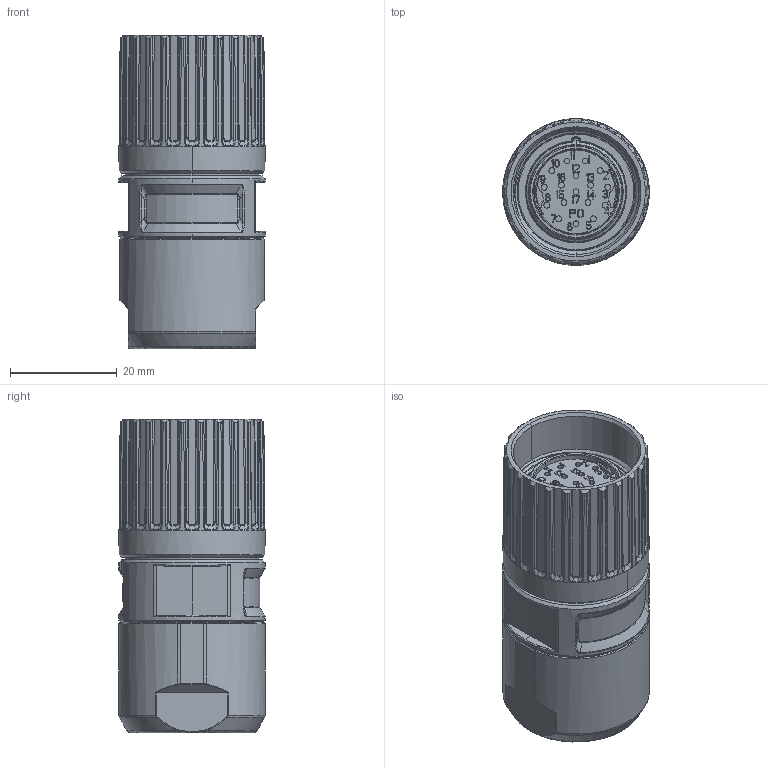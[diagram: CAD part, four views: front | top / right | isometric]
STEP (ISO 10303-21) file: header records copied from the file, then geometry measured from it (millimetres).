
FILE_DESCRIPTION((''),'2;1');
FILE_NAME('1629203','2018-08-29T',('cosa01'),(''),'PRO/ENGINEER BY PARAMETRIC TECHNOLOGY CORPORATION, 2014200','PRO/ENGINEER BY PARAMETRIC TECHNOLOGY CORPORATION, 2014200','');
FILE_SCHEMA(('AUTOMOTIVE_DESIGN { 1 0 10303 214 1 1 1 1 }'));
Length unit declared in the file: millimetre
Products named in the file (1): 1629203
Bounding box: 27.4 x 27.4 x 58.57 mm (x, y, z)
Volume: 28376.7 mm3; surface area: 9105.1 mm2
Topology: 1 solids, 1 shells, 1795 faces, 4728 edges, 3004 vertices
Faces by surface type: plane 980, bspline 401, cylinder 175, cone 143, torus 86, sphere 8, extrusion 2
Entity records: 75149 total; most frequent: CARTESIAN_POINT 33681, ORIENTED_EDGE 9456, DIRECTION 7371, EDGE_CURVE 4728, VERTEX_POINT 3004, VECTOR 2765, LINE 2763, AXIS2_PLACEMENT_3D 2303
